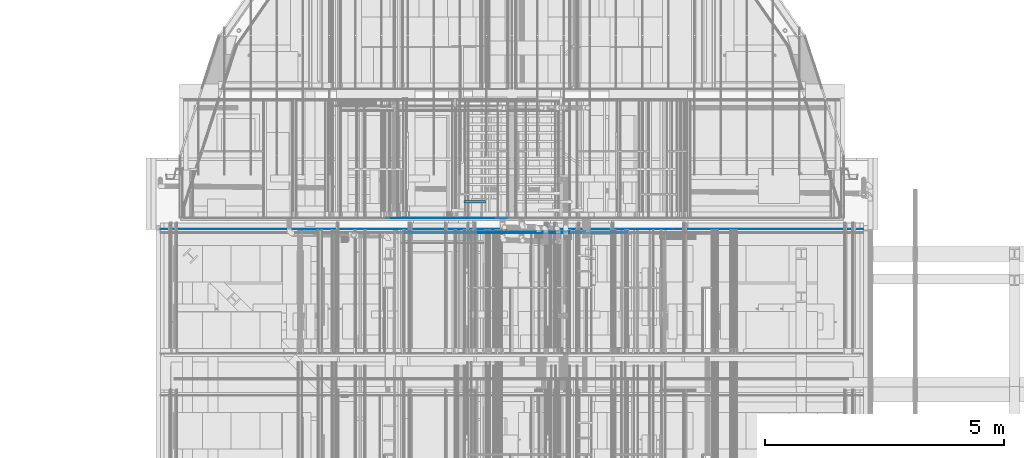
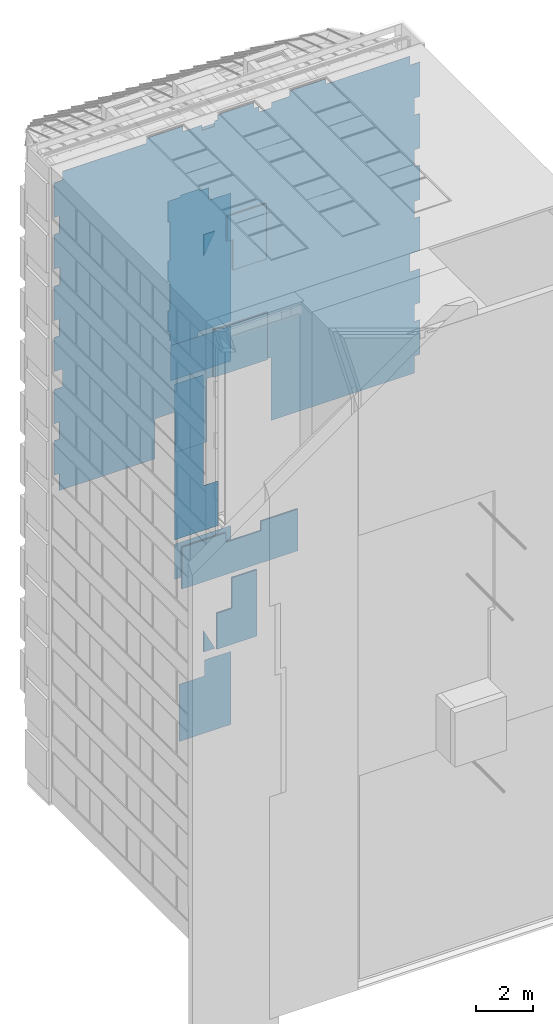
# One storey, part 265 of 583: 19 slabs.
"""IFC2X3 building model written with IfcOpenShell, lengths in metres."""

from ifc_helpers import new_model, entity, si_unit, converted_unit, derived_unit, money_unit, direction, frame, origin_with_axes, place, context, subcontext, project, spatial, faceted_brep, material, type_object, element, save


model = new_model("IFC2X3")

# Units and contexts
model_context = context("Model", 3, precision=1e-05, world=origin_with_axes(), true_north=direction((0.0, 1.0)))
body_context = subcontext(model_context, "Body", "Model", "MODEL_VIEW", scale=1.0)
ifc_project = project(units=[si_unit("LENGTHUNIT", "METRE"), si_unit("AREAUNIT", "SQUARE_METRE"), si_unit("VOLUMEUNIT", "CUBIC_METRE"), si_unit("ABSORBEDDOSEUNIT", "GRAY"), si_unit("AMOUNTOFSUBSTANCEUNIT", "MOLE"), si_unit("DOSEEQUIVALENTUNIT", "SIEVERT"), si_unit("ELECTRICCAPACITANCEUNIT", "FARAD"), si_unit("ELECTRICCHARGEUNIT", "COULOMB"), si_unit("ELECTRICCONDUCTANCEUNIT", "SIEMENS"), si_unit("ELECTRICCURRENTUNIT", "AMPERE"), si_unit("ELECTRICRESISTANCEUNIT", "OHM"), si_unit("ELECTRICVOLTAGEUNIT", "VOLT"), si_unit("ENERGYUNIT", "JOULE"), si_unit("FORCEUNIT", "NEWTON"), si_unit("FREQUENCYUNIT", "HERTZ"), si_unit("ILLUMINANCEUNIT", "LUX"), si_unit("INDUCTANCEUNIT", "HENRY"), si_unit("LUMINOUSFLUXUNIT", "LUMEN"), si_unit("LUMINOUSINTENSITYUNIT", "CANDELA"), si_unit("MAGNETICFLUXDENSITYUNIT", "TESLA"), si_unit("MAGNETICFLUXUNIT", "WEBER"), si_unit("MASSUNIT", "GRAM"), converted_unit("PLANEANGLEUNIT", "degree", entity("IfcReal", 0.0174532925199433), si_unit("PLANEANGLEUNIT", "RADIAN"), dimensions=[0, 0, 0, 0, 0, 0, 0]), si_unit("POWERUNIT", "WATT"), si_unit("PRESSUREUNIT", "PASCAL"), si_unit("RADIOACTIVITYUNIT", "BECQUEREL"), si_unit("SOLIDANGLEUNIT", "STERADIAN"), si_unit("THERMODYNAMICTEMPERATUREUNIT", "KELVIN"), si_unit("TIMEUNIT", "SECOND"), derived_unit("ACCELERATIONUNIT", [(si_unit("LENGTHUNIT", "METRE"), 1), (si_unit("TIMEUNIT", "SECOND"), -2)]), derived_unit("ANGULARVELOCITYUNIT", [(converted_unit("PLANEANGLEUNIT", "degree", entity("IfcReal", 0.0174532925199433), si_unit("PLANEANGLEUNIT", "RADIAN"), dimensions=[0, 0, 0, 0, 0, 0, 0]), 1), (si_unit("TIMEUNIT", "SECOND"), -1)]), derived_unit("CURVATUREUNIT", [(converted_unit("PLANEANGLEUNIT", "degree", entity("IfcReal", 0.0174532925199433), si_unit("PLANEANGLEUNIT", "RADIAN"), dimensions=[0, 0, 0, 0, 0, 0, 0]), 1), (si_unit("LENGTHUNIT", "METRE"), -1)]), derived_unit("DYNAMICVISCOSITYUNIT", [(si_unit("PRESSUREUNIT", "PASCAL"), 1), (si_unit("TIMEUNIT", "SECOND"), 1)]), derived_unit("HEATFLUXDENSITYUNIT", [(si_unit("POWERUNIT", "WATT"), 1), (si_unit("LENGTHUNIT", "METRE"), -2)]), derived_unit("HEATINGVALUEUNIT", [(si_unit("ENERGYUNIT", "JOULE"), 1), (si_unit("MASSUNIT", "GRAM"), -1)]), derived_unit("INTEGERCOUNTRATEUNIT", [(si_unit("TIMEUNIT", "SECOND"), -1)]), derived_unit("IONCONCENTRATIONUNIT", [(si_unit("MASSUNIT", "GRAM"), 1), (si_unit("VOLUMEUNIT", "CUBIC_METRE"), -1)]), derived_unit("ISOTHERMALMOISTURECAPACITYUNIT", [(si_unit("VOLUMEUNIT", "CUBIC_METRE"), 1), (si_unit("MASSUNIT", "GRAM"), -1)]), derived_unit("KINEMATICVISCOSITYUNIT", [(si_unit("AREAUNIT", "SQUARE_METRE"), 1), (si_unit("TIMEUNIT", "SECOND"), -1)]), derived_unit("LINEARFORCEUNIT", [(si_unit("FORCEUNIT", "NEWTON"), 1), (si_unit("LENGTHUNIT", "METRE"), -1)]), derived_unit("LINEARMOMENTUNIT", [(si_unit("FORCEUNIT", "NEWTON"), 1), (si_unit("LENGTHUNIT", "METRE"), -1)]), derived_unit("LINEARSTIFFNESSUNIT", [(si_unit("FORCEUNIT", "NEWTON"), 1), (si_unit("LENGTHUNIT", "METRE"), -1)]), derived_unit("LINEARVELOCITYUNIT", [(si_unit("LENGTHUNIT", "METRE"), 1), (si_unit("TIMEUNIT", "SECOND"), -1)]), derived_unit("LUMINOUSINTENSITYDISTRIBUTIONUNIT", [(si_unit("LUMINOUSINTENSITYUNIT", "CANDELA"), 1), (si_unit("LUMINOUSFLUXUNIT", "LUMEN"), -1)]), derived_unit("MASSDENSITYUNIT", [(si_unit("MASSUNIT", "GRAM"), 1), (si_unit("VOLUMEUNIT", "CUBIC_METRE"), -1)]), derived_unit("MASSFLOWRATEUNIT", [(si_unit("MASSUNIT", "GRAM"), 1), (si_unit("TIMEUNIT", "SECOND"), -1)]), derived_unit("MASSPERLENGTHUNIT", [(si_unit("MASSUNIT", "GRAM"), 1), (si_unit("LENGTHUNIT", "METRE"), -1)]), derived_unit("MODULUSOFELASTICITYUNIT", [(si_unit("FORCEUNIT", "NEWTON"), 1), (si_unit("AREAUNIT", "SQUARE_METRE"), -1)]), derived_unit("MODULUSOFLINEARSUBGRADEREACTIONUNIT", [(si_unit("FORCEUNIT", "NEWTON"), 1), (si_unit("LENGTHUNIT", "METRE"), -2)]), derived_unit("MODULUSOFROTATIONALSUBGRADEREACTIONUNIT", [(si_unit("FORCEUNIT", "NEWTON"), 1), (si_unit("LENGTHUNIT", "METRE"), 1)]), derived_unit("MODULUSOFSUBGRADEREACTIONUNIT", [(si_unit("FORCEUNIT", "NEWTON"), 1), (si_unit("VOLUMEUNIT", "CUBIC_METRE"), -1)]), derived_unit("MOISTUREDIFFUSIVITYUNIT", [(si_unit("VOLUMEUNIT", "CUBIC_METRE"), 1), (si_unit("TIMEUNIT", "SECOND"), -1)]), derived_unit("MOLECULARWEIGHTUNIT", [(si_unit("MASSUNIT", "GRAM"), 1), (si_unit("AMOUNTOFSUBSTANCEUNIT", "MOLE"), -1)]), derived_unit("PLANARFORCEUNIT", [(si_unit("FORCEUNIT", "NEWTON"), 1), (si_unit("LENGTHUNIT", "METRE"), -2)]), derived_unit("ROTATIONALFREQUENCYUNIT", [(si_unit("TIMEUNIT", "SECOND"), -1)]), derived_unit("ROTATIONALMASSUNIT", [(si_unit("MASSUNIT", "GRAM"), 1), (si_unit("LENGTHUNIT", "METRE"), 2)]), derived_unit("ROTATIONALSTIFFNESSUNIT", [(si_unit("FORCEUNIT", "NEWTON"), 1), (si_unit("LENGTHUNIT", "METRE"), 1), (converted_unit("PLANEANGLEUNIT", "degree", entity("IfcReal", 0.0174532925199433), si_unit("PLANEANGLEUNIT", "RADIAN"), dimensions=[0, 0, 0, 0, 0, 0, 0]), -1)]), derived_unit("SECTIONAREAINTEGRALUNIT", [(si_unit("LENGTHUNIT", "METRE"), 5)]), derived_unit("SECTIONMODULUSUNIT", [(si_unit("LENGTHUNIT", "METRE"), 3)]), derived_unit("SHEARMODULUSUNIT", [(si_unit("FORCEUNIT", "NEWTON"), 1), (si_unit("AREAUNIT", "SQUARE_METRE"), -1)]), derived_unit("SOUNDPOWERUNIT", [(si_unit("ENERGYUNIT", "JOULE"), 1), (si_unit("TIMEUNIT", "SECOND"), -1)]), derived_unit("SPECIFICHEATCAPACITYUNIT", [(si_unit("FORCEUNIT", "NEWTON"), 1), (si_unit("MASSUNIT", "GRAM"), -1), (si_unit("THERMODYNAMICTEMPERATUREUNIT", "KELVIN"), -1)]), derived_unit("TEMPERATUREGRADIENTUNIT", [(si_unit("THERMODYNAMICTEMPERATUREUNIT", "KELVIN"), 1), (si_unit("LENGTHUNIT", "METRE"), -1)]), derived_unit("THERMALADMITTANCEUNIT", [(si_unit("POWERUNIT", "WATT"), 1), (si_unit("AREAUNIT", "SQUARE_METRE"), -1), (si_unit("THERMODYNAMICTEMPERATUREUNIT", "KELVIN"), -1)]), derived_unit("THERMALCONDUCTANCEUNIT", [(si_unit("POWERUNIT", "WATT"), 1), (si_unit("LENGTHUNIT", "METRE"), -1), (si_unit("THERMODYNAMICTEMPERATUREUNIT", "KELVIN"), -1)]), derived_unit("THERMALEXPANSIONCOEFFICIENTUNIT", [(si_unit("THERMODYNAMICTEMPERATUREUNIT", "KELVIN"), -1)]), derived_unit("THERMALRESISTANCEUNIT", [(si_unit("AREAUNIT", "SQUARE_METRE"), 1), (si_unit("POWERUNIT", "WATT"), -1)]), derived_unit("THERMALTRANSMITTANCEUNIT", [(si_unit("POWERUNIT", "WATT"), 1), (si_unit("AREAUNIT", "SQUARE_METRE"), -1), (si_unit("THERMODYNAMICTEMPERATUREUNIT", "KELVIN"), -1)]), derived_unit("TORQUEUNIT", [(si_unit("FORCEUNIT", "NEWTON"), 1), (si_unit("LENGTHUNIT", "METRE"), 1)]), derived_unit("VAPORPERMEABILITYUNIT", [(si_unit("MASSUNIT", "GRAM"), 1), (si_unit("TIMEUNIT", "SECOND"), -1)]), derived_unit("VOLUMETRICFLOWRATEUNIT", [(si_unit("VOLUMEUNIT", "CUBIC_METRE"), 1), (si_unit("TIMEUNIT", "SECOND"), -1)]), derived_unit("WARPINGCONSTANTUNIT", [(si_unit("LENGTHUNIT", "METRE"), 6)]), derived_unit("WARPINGMOMENTUNIT", [(si_unit("FORCEUNIT", "NEWTON"), 1), (si_unit("LENGTHUNIT", "METRE"), 2)]), money_unit("GBP")], contexts=[model_context])

# Site, building, storey
site_placement = place(None, origin_with_axes())
site = spatial("IfcSite", under=ifc_project, at=site_placement, Name="Site", CompositionType="ELEMENT")
building_placement = place(site_placement, origin_with_axes())
building = spatial("IfcBuilding", under=site, at=building_placement, Name="Building01", CompositionType="ELEMENT")
storey_placement = place(building_placement, frame((0.0, 0.0, 20.78), z_axis=(0.0, 0.0, 1.0), x_axis=(1.0, 0.0, 0.0)))
storey = spatial("IfcBuildingStorey", under=building, at=storey_placement, Name="RL", CompositionType="ELEMENT", Elevation=20.78)

# Slabs
ifc_material_1 = material(Name="A_BSUK_CeilingSoffitFinishes_Suspended")
slab_type_1 = type_object("IfcSlabType", Name="A-FloorsSlabs A_BSUK_Slabs", PredefinedType="FLOOR")
placement = place(storey_placement, frame((0.0, 0.0, -20.78), z_axis=(0.0, 0.0, 1.0), x_axis=(1.0, 0.0, 0.0)))
element("IfcSlab", 1, at=placement, inside=storey, type_object=slab_type_1, material=ifc_material_1, Name="A-FloorsSlabs A_BSUK_Slabs", ObjectType="CompoundSlabLeaf", context=body_context, shape_type="Brep", body=[
    faceted_brep([(5.205, 14.658, 7.289669), (5.205, 14.673, 7.289669), (9.862704, 14.673, 7.289669), (9.862704, 14.658, 7.289669), (5.205, 14.658, 9.06), (5.205, 14.673, 9.06), (6.968405, 14.658, 9.06), (6.968405, 14.673, 9.06), (6.968405, 14.658, 8.658), (6.968405, 14.673, 8.658), (8.372405, 14.658, 8.658), (8.372405, 14.673, 8.658), (8.372405, 14.658, 9.06), (8.372405, 14.673, 9.06), (8.665, 14.658, 9.06), (8.665, 14.673, 9.06), (9.862704, 14.658, 9.06), (9.862704, 14.673, 9.06)], [[[0, 1, 2, 3]], [[4, 5, 1, 0]], [[6, 7, 5, 4]], [[8, 9, 7, 6]], [[10, 11, 9, 8]], [[12, 13, 11, 10]], [[14, 15, 13, 12]], [[16, 17, 15, 14]], [[3, 2, 17, 16]], [[1, 5, 7, 9, 11, 13, 15, 17, 2]], [[3, 16, 14, 12, 10, 8, 6, 4, 0]]]),
])
element("IfcSlab", 2, at=placement, inside=storey, type_object=slab_type_1, material=ifc_material_1, Name="A-FloorsSlabs A_BSUK_Slabs", ObjectType="CompoundSlabLeaf", context=body_context, shape_type="Brep", body=[
    faceted_brep([(6.475, 14.658, 15.83), (6.475, 14.673, 15.83), (8.65, 14.673, 15.83), (8.65, 14.658, 15.83), (6.475, 14.658, 17.83), (6.475, 14.673, 17.83), (8.65, 14.658, 17.83), (8.65, 14.673, 17.83)], [[[0, 1, 2, 3]], [[4, 5, 1, 0]], [[6, 7, 5, 4]], [[3, 2, 7, 6]], [[1, 5, 7, 2]], [[3, 6, 4, 0]]]),
])
element("IfcSlab", 3, at=placement, inside=storey, type_object=slab_type_1, material=ifc_material_1, Name="A-FloorsSlabs A_BSUK_Slabs", ObjectType="CompoundSlabLeaf", context=body_context, shape_type="Brep", body=[
    faceted_brep([(8.595, 14.658, 20.122661), (8.595, 14.673, 20.122661), (8.595, 14.673, 22.476661), (8.595, 14.658, 22.476661), (7.25, 14.658, 20.122661), (7.25, 14.673, 20.122661), (7.25, 14.658, 21.417661), (7.25, 14.673, 21.417661), (7.05, 14.658, 21.417661), (7.05, 14.673, 21.417661), (7.05, 14.658, 22.476661), (7.05, 14.673, 22.476661)], [[[0, 1, 2, 3]], [[4, 5, 1, 0]], [[6, 7, 5, 4]], [[8, 9, 7, 6]], [[10, 11, 9, 8]], [[3, 2, 11, 10]], [[1, 5, 7, 9, 11, 2]], [[3, 10, 8, 6, 4, 0]]]),
])
element("IfcSlab", 4, at=placement, inside=storey, type_object=slab_type_1, material=ifc_material_1, Name="A-FloorsSlabs A_BSUK_Slabs", ObjectType="CompoundSlabLeaf", context=body_context, shape_type="Brep", body=[
    faceted_brep([(8.21067, 14.658, 4.24073), (8.21067, 14.673, 4.24073), (8.21067, 14.673, 7.064669), (8.21067, 14.658, 7.064669), (6.606475, 14.658, 4.24073), (6.606475, 14.673, 4.24073), (6.606475, 14.658, 5.769669), (6.606475, 14.673, 5.769669), (7.206475, 14.658, 5.769669), (7.206475, 14.673, 5.769669), (7.206475, 14.658, 7.064669), (7.206475, 14.673, 7.064669)], [[[0, 1, 2, 3]], [[4, 5, 1, 0]], [[6, 7, 5, 4]], [[8, 9, 7, 6]], [[10, 11, 9, 8]], [[3, 2, 11, 10]], [[1, 5, 7, 9, 11, 2]], [[3, 10, 8, 6, 4, 0]]]),
])
element("IfcSlab", 5, at=placement, inside=storey, type_object=slab_type_1, material=ifc_material_1, Name="A-FloorsSlabs A_BSUK_Slabs", ObjectType="CompoundSlabLeaf", context=body_context, shape_type="Brep", body=[
    faceted_brep([(14.402, 14.723, 26.662), (14.402, 14.738, 26.662), (11.03218, 14.738, 26.662), (11.03218, 14.723, 26.662), (14.402, 14.723, 26.285), (14.402, 14.738, 26.285), (14.8, 14.723, 26.285), (14.8, 14.738, 26.285), (14.8, 14.723, 24.815), (14.8, 14.738, 24.815), (14.582, 14.723, 24.815), (14.582, 14.738, 24.815), (14.582, 14.723, 24.095), (14.582, 14.738, 24.095), (14.8, 14.723, 24.095), (14.8, 14.738, 24.095), (14.8, 14.723, 22.625), (14.8, 14.738, 22.625), (14.582, 14.723, 22.625), (14.582, 14.738, 22.625), (14.582, 14.723, 21.905), (14.582, 14.738, 21.905), (14.8, 14.723, 21.905), (14.8, 14.738, 21.905), (14.8, 14.723, 20.435), (14.8, 14.738, 20.435), (14.582, 14.723, 20.435), (14.582, 14.738, 20.435), (14.582, 14.723, 19.715), (14.582, 14.738, 19.715), (14.8, 14.723, 19.715), (14.8, 14.738, 19.715), (14.8, 14.723, 18.268), (14.8, 14.738, 18.268), (14.402, 14.723, 18.268), (14.402, 14.738, 18.268), (14.402, 14.723, 17.502), (14.402, 14.738, 17.502), (14.8, 14.723, 17.502), (14.8, 14.738, 17.502), (14.8, 14.723, 16.055), (14.8, 14.738, 16.055), (14.582, 14.723, 16.055), (14.582, 14.738, 16.055), (14.582, 14.723, 15.335), (14.582, 14.738, 15.335), (14.8, 14.723, 15.335), (14.8, 14.738, 15.335), (14.8, 14.723, 13.865), (14.8, 14.738, 13.865), (14.582, 14.723, 13.865), (14.582, 14.738, 13.865), (14.582, 14.723, 13.145), (14.582, 14.738, 13.145), (8.82, 14.723, 13.145), (8.82, 14.738, 13.145), (8.82, 14.723, 15.83), (8.82, 14.738, 15.83), (6.25, 14.723, 15.83), (6.25, 14.738, 15.83), (6.25, 14.723, 13.145), (6.25, 14.738, 13.145), (4.98, 14.723, 13.145), (4.98, 14.738, 13.145), (4.98, 14.723, 14.85), (4.98, 14.738, 14.85), (4.164428, 14.723, 14.85), (4.164428, 14.738, 14.85), (4.164428, 14.723, 13.145), (4.164428, 14.738, 13.145), (0.318, 14.723, 13.145), (0.318, 14.738, 13.145), (0.318, 14.723, 13.865), (0.318, 14.738, 13.865), (0.1, 14.723, 13.865), (0.1, 14.738, 13.865), (0.1, 14.723, 15.335), (0.1, 14.738, 15.335), (0.318, 14.723, 15.335), (0.318, 14.738, 15.335), (0.318, 14.723, 16.055), (0.318, 14.738, 16.055), (0.1, 14.723, 16.055), (0.1, 14.738, 16.055), (0.1, 14.723, 17.502), (0.1, 14.738, 17.502), (0.448, 14.723, 17.502), (0.448, 14.738, 17.502), (0.448, 14.723, 18.268), (0.448, 14.738, 18.268), (0.1, 14.723, 18.268), (0.1, 14.738, 18.268), (0.1, 14.723, 19.715), (0.1, 14.738, 19.715), (0.318, 14.723, 19.715), (0.318, 14.738, 19.715), (0.318, 14.723, 20.435), (0.318, 14.738, 20.435), (0.1, 14.723, 20.435), (0.1, 14.738, 20.435), (0.1, 14.723, 21.89), (0.1, 14.738, 21.89), (0.333, 14.723, 21.89), (0.333, 14.738, 21.89), (0.333, 14.723, 22.625), (0.333, 14.738, 22.625), (0.1, 14.723, 22.625), (0.1, 14.738, 22.625), (0.1, 14.723, 24.095), (0.1, 14.738, 24.095), (0.318, 14.723, 24.095), (0.318, 14.738, 24.095), (0.318, 14.723, 24.815), (0.318, 14.738, 24.815), (0.1, 14.723, 24.815), (0.1, 14.738, 24.815), (0.1, 14.723, 26.285), (0.1, 14.738, 26.285), (0.448, 14.723, 26.285), (0.448, 14.738, 26.285), (0.448, 14.723, 26.662), (0.448, 14.738, 26.662), (3.82218, 14.723, 26.662), (3.82218, 14.738, 26.662), (3.82218, 14.723, 26.88), (3.82218, 14.738, 26.88), (5.29218, 14.723, 26.88), (5.29218, 14.738, 26.88), (5.29218, 14.723, 26.662), (5.29218, 14.738, 26.662), (6.052, 14.723, 26.662), (6.052, 14.738, 26.662), (6.052, 14.723, 26.432), (6.052, 14.738, 26.432), (6.548, 14.723, 26.432), (6.548, 14.738, 26.432), (6.548, 14.723, 26.662), (6.548, 14.738, 26.662), (6.682326, 14.723, 26.662), (6.682326, 14.738, 26.662), (6.682326, 14.723, 26.88), (6.682326, 14.738, 26.88), (8.137326, 14.723, 26.88), (8.137326, 14.738, 26.88), (8.137326, 14.723, 26.646178), (8.137326, 14.738, 26.646178), (8.334548, 14.723, 26.646178), (8.334548, 14.738, 26.646178), (8.334548, 14.723, 26.417), (8.334548, 14.738, 26.417), (8.848, 14.723, 26.417), (8.848, 14.738, 26.417), (8.848, 14.723, 26.646178), (8.848, 14.738, 26.646178), (9.57718, 14.723, 26.646178), (9.57718, 14.738, 26.646178), (9.57718, 14.723, 26.88), (9.57718, 14.738, 26.88), (11.03218, 14.723, 26.88), (11.03218, 14.738, 26.88)], [[[0, 1, 2, 3]], [[4, 5, 1, 0]], [[6, 7, 5, 4]], [[8, 9, 7, 6]], [[10, 11, 9, 8]], [[12, 13, 11, 10]], [[14, 15, 13, 12]], [[16, 17, 15, 14]], [[18, 19, 17, 16]], [[20, 21, 19, 18]], [[22, 23, 21, 20]], [[24, 25, 23, 22]], [[26, 27, 25, 24]], [[28, 29, 27, 26]], [[30, 31, 29, 28]], [[32, 33, 31, 30]], [[34, 35, 33, 32]], [[36, 37, 35, 34]], [[38, 39, 37, 36]], [[40, 41, 39, 38]], [[42, 43, 41, 40]], [[44, 45, 43, 42]], [[46, 47, 45, 44]], [[48, 49, 47, 46]], [[50, 51, 49, 48]], [[52, 53, 51, 50]], [[54, 55, 53, 52]], [[56, 57, 55, 54]], [[58, 59, 57, 56]], [[60, 61, 59, 58]], [[62, 63, 61, 60]], [[64, 65, 63, 62]], [[66, 67, 65, 64]], [[68, 69, 67, 66]], [[70, 71, 69, 68]], [[72, 73, 71, 70]], [[74, 75, 73, 72]], [[76, 77, 75, 74]], [[78, 79, 77, 76]], [[80, 81, 79, 78]], [[82, 83, 81, 80]], [[84, 85, 83, 82]], [[86, 87, 85, 84]], [[88, 89, 87, 86]], [[90, 91, 89, 88]], [[92, 93, 91, 90]], [[94, 95, 93, 92]], [[96, 97, 95, 94]], [[98, 99, 97, 96]], [[100, 101, 99, 98]], [[102, 103, 101, 100]], [[104, 105, 103, 102]], [[106, 107, 105, 104]], [[108, 109, 107, 106]], [[110, 111, 109, 108]], [[112, 113, 111, 110]], [[114, 115, 113, 112]], [[116, 117, 115, 114]], [[118, 119, 117, 116]], [[120, 121, 119, 118]], [[122, 123, 121, 120]], [[124, 125, 123, 122]], [[126, 127, 125, 124]], [[128, 129, 127, 126]], [[130, 131, 129, 128]], [[132, 133, 131, 130]], [[134, 135, 133, 132]], [[136, 137, 135, 134]], [[138, 139, 137, 136]], [[140, 141, 139, 138]], [[142, 143, 141, 140]], [[144, 145, 143, 142]], [[146, 147, 145, 144]], [[148, 149, 147, 146]], [[150, 151, 149, 148]], [[152, 153, 151, 150]], [[154, 155, 153, 152]], [[156, 157, 155, 154]], [[158, 159, 157, 156]], [[3, 2, 159, 158]], [[1, 5, 7, 9, 11, 13, 15, 17, 19, 21, 23, 25, 27, 29, 31, 33, 35, 37, 39, 41, 43, 45, 47, 49, 51, 53, 55, 57, 59, 61, 63, 65, 67, 69, 71, 73, 75, 77, 79, 81, 83, 85, 87, 89, 91, 93, 95, 97, 99, 101, 103, 105, 107, 109, 111, 113, 115, 117, 119, 121, 123, 125, 127, 129, 131, 133, 135, 137, 139, 141, 143, 145, 147, 149, 151, 153, 155, 157, 159, 2]], [[3, 158, 156, 154, 152, 150, 148, 146, 144, 142, 140, 138, 136, 134, 132, 130, 128, 126, 124, 122, 120, 118, 116, 114, 112, 110, 108, 106, 104, 102, 100, 98, 96, 94, 92, 90, 88, 86, 84, 82, 80, 78, 76, 74, 72, 70, 68, 66, 64, 62, 60, 58, 56, 54, 52, 50, 48, 46, 44, 42, 40, 38, 36, 34, 32, 30, 28, 26, 24, 22, 20, 18, 16, 14, 12, 10, 8, 6, 4, 0]]]),
])
ifc_material_2 = material(Name="A_BSUK_ExpandedPolystyreneBoards")
element("IfcSlab", 6, at=placement, inside=storey, type_object=slab_type_1, material=ifc_material_2, Name="A-FloorsSlabs A_BSUK_Slabs", ObjectType="CompoundSlabLeaf", context=body_context, shape_type="Brep", body=[
    faceted_brep([(7.284939, 14.965, 3.715111), (7.284939, 14.968, 3.715111), (6.279939, 14.968, 3.715111), (6.279939, 14.965, 3.715111), (7.349939, 14.965, 3.715111), (7.349939, 14.968, 3.715111), (7.349939, 14.965, 0.6038), (7.349939, 14.968, 0.6038), (5.254976, 14.965, 0.6038), (5.254976, 14.968, 0.6038), (5.254976, 14.965, 1.312402), (5.254976, 14.968, 1.312402), (5.254976, 14.965, 3.039976), (5.254976, 14.968, 3.039976), (6.279939, 14.965, 3.039976), (6.279939, 14.968, 3.039976)], [[[0, 1, 2, 3]], [[4, 5, 1, 0]], [[6, 7, 5, 4]], [[8, 9, 7, 6]], [[10, 11, 9, 8]], [[12, 13, 11, 10]], [[14, 15, 13, 12]], [[3, 2, 15, 14]], [[1, 5, 7, 9, 11, 13, 15, 2]], [[3, 14, 12, 10, 8, 6, 4, 0]]]),
])
element("IfcSlab", 7, at=placement, inside=storey, type_object=slab_type_1, material=ifc_material_2, Name="A-FloorsSlabs A_BSUK_Slabs", ObjectType="CompoundSlabLeaf", context=body_context, shape_type="Brep", body=[
    faceted_brep([(5.08, 14.965, 7.56), (5.08, 14.968, 7.56), (7.349939, 14.968, 7.56), (7.349939, 14.965, 7.56), (5.08, 14.965, 9.06), (5.08, 14.968, 9.06), (7.349939, 14.965, 9.06), (7.349939, 14.968, 9.06)], [[[0, 1, 2, 3]], [[4, 5, 1, 0]], [[6, 7, 5, 4]], [[3, 2, 7, 6]], [[1, 5, 7, 2]], [[3, 6, 4, 0]]]),
])
element("IfcSlab", 8, at=placement, inside=storey, type_object=slab_type_1, material=ifc_material_2, Name="A-FloorsSlabs A_BSUK_Slabs", ObjectType="CompoundSlabLeaf", context=body_context, shape_type="Brep", body=[
    faceted_brep([(7.349915, 14.965, 16.03844), (7.349915, 14.968, 16.03844), (7.349915, 14.968, 17.53844), (7.349915, 14.965, 17.53844), (4.917, 14.965, 16.03844), (4.917, 14.968, 16.03844), (4.917, 14.965, 17.53844), (4.917, 14.968, 17.53844)], [[[0, 1, 2, 3]], [[4, 5, 1, 0]], [[6, 7, 5, 4]], [[3, 2, 7, 6]], [[1, 5, 7, 2]], [[3, 6, 4, 0]]]),
])
element("IfcSlab", 9, at=placement, inside=storey, type_object=slab_type_1, material=ifc_material_2, Name="A-FloorsSlabs A_BSUK_Slabs", ObjectType="CompoundSlabLeaf", context=body_context, shape_type="Brep", body=[
    faceted_brep([(7.349915, 14.965, 17.73844), (7.349915, 14.968, 17.73844), (7.349915, 14.968, 18.11844), (7.349915, 14.965, 18.11844), (6.028, 14.965, 17.73844), (6.028, 14.968, 17.73844), (6.028, 14.965, 17.53844), (6.028, 14.968, 17.53844), (4.944, 14.965, 17.53844), (4.944, 14.968, 17.53844), (4.944, 14.965, 17.73844), (4.944, 14.968, 17.73844), (4.897, 14.965, 17.73844), (4.897, 14.968, 17.73844), (4.897, 14.965, 18.149976), (4.897, 14.968, 18.149976), (4.817, 14.965, 18.149976), (4.817, 14.968, 18.149976), (4.817, 14.965, 19.049976), (4.817, 14.968, 19.049976), (4.897, 14.965, 19.049976), (4.897, 14.968, 19.049976), (4.897, 14.965, 20.269976), (4.897, 14.968, 20.269976), (4.817, 14.965, 20.269976), (4.817, 14.968, 20.269976), (4.817, 14.965, 21.169976), (4.817, 14.968, 21.169976), (4.897, 14.965, 21.169976), (4.897, 14.968, 21.169976), (4.897, 14.965, 22.81), (4.897, 14.968, 22.81), (4.817, 14.965, 22.81), (4.817, 14.968, 22.81), (4.817, 14.965, 23.71), (4.817, 14.968, 23.71), (4.897, 14.965, 23.71), (4.897, 14.968, 23.71), (5.330939, 14.965, 23.71), (5.330939, 14.968, 23.71), (5.330939, 14.965, 23.79), (5.330939, 14.968, 23.79), (6.080939, 14.965, 23.79), (6.080939, 14.968, 23.79), (6.080939, 14.965, 23.71), (6.080939, 14.968, 23.71), (6.470085, 14.965, 23.71), (6.470085, 14.968, 23.71), (6.470085, 14.965, 23.178821), (6.470085, 14.968, 23.178821), (7.349915, 14.965, 23.178821), (7.349915, 14.968, 23.178821), (7.349915, 14.965, 21.51844), (7.349915, 14.968, 21.51844)], [[[0, 1, 2, 3]], [[4, 5, 1, 0]], [[6, 7, 5, 4]], [[8, 9, 7, 6]], [[10, 11, 9, 8]], [[12, 13, 11, 10]], [[14, 15, 13, 12]], [[16, 17, 15, 14]], [[18, 19, 17, 16]], [[20, 21, 19, 18]], [[22, 23, 21, 20]], [[24, 25, 23, 22]], [[26, 27, 25, 24]], [[28, 29, 27, 26]], [[30, 31, 29, 28]], [[32, 33, 31, 30]], [[34, 35, 33, 32]], [[36, 37, 35, 34]], [[38, 39, 37, 36]], [[40, 41, 39, 38]], [[42, 43, 41, 40]], [[44, 45, 43, 42]], [[46, 47, 45, 44]], [[48, 49, 47, 46]], [[50, 51, 49, 48]], [[52, 53, 51, 50]], [[3, 2, 53, 52]], [[1, 5, 7, 9, 11, 13, 15, 17, 19, 21, 23, 25, 27, 29, 31, 33, 35, 37, 39, 41, 43, 45, 47, 49, 51, 53, 2]], [[3, 52, 50, 48, 46, 44, 42, 40, 38, 36, 34, 32, 30, 28, 26, 24, 22, 20, 18, 16, 14, 12, 10, 8, 6, 4, 0]]]),
])
element("IfcSlab", 10, at=placement, inside=storey, type_object=slab_type_1, material=ifc_material_2, Name="A-FloorsSlabs A_BSUK_Slabs", ObjectType="CompoundSlabLeaf", context=body_context, shape_type="Brep", body=[
    faceted_brep([(7.349915, 14.965, 23.258821), (7.349915, 14.968, 23.258821), (7.349915, 14.968, 26.3762), (7.349915, 14.965, 26.3762), (6.550085, 14.965, 23.258821), (6.550085, 14.968, 23.258821), (6.550085, 14.965, 23.79), (6.550085, 14.968, 23.79), (5.254915, 14.965, 23.79), (5.254915, 14.968, 23.79), (5.254915, 14.965, 26.3762), (5.254915, 14.968, 26.3762), (6.874964, 14.965, 26.3762), (6.874964, 14.968, 26.3762)], [[[0, 1, 2, 3]], [[4, 5, 1, 0]], [[6, 7, 5, 4]], [[8, 9, 7, 6]], [[10, 11, 9, 8]], [[12, 13, 11, 10]], [[3, 2, 13, 12]], [[1, 5, 7, 9, 11, 13, 2]], [[3, 12, 10, 8, 6, 4, 0]]]),
])
element("IfcSlab", 11, at=placement, inside=storey, type_object=slab_type_1, material=ifc_material_2, Name="A-FloorsSlabs A_BSUK_Slabs", ObjectType="CompoundSlabLeaf", context=body_context, shape_type="Brep", body=[
    faceted_brep([(5.08, 14.965, 9.23), (5.08, 14.968, 9.23), (6.85, 14.968, 9.23), (6.85, 14.965, 9.23), (5.08, 14.965, 15.83844), (5.08, 14.968, 15.83844), (6.25, 14.965, 15.83844), (6.25, 14.968, 15.83844), (6.25, 14.965, 11.13), (6.25, 14.968, 11.13), (6.85, 14.965, 11.13), (6.85, 14.968, 11.13)], [[[0, 1, 2, 3]], [[4, 5, 1, 0]], [[6, 7, 5, 4]], [[8, 9, 7, 6]], [[10, 11, 9, 8]], [[3, 2, 11, 10]], [[1, 5, 7, 9, 11, 2]], [[3, 10, 8, 6, 4, 0]]]),
])
ifc_material_3 = material(Name="A_BSUK_Slabs")
element("IfcSlab", 12, at=placement, inside=storey, type_object=slab_type_1, material=ifc_material_3, Name="A-FloorsSlabs A_BSUK_Slabs", ObjectType="CompoundSlabLeaf", context=body_context, shape_type="Brep", body=[
    faceted_brep([(6.899939, 15.29, 3.795111), (6.899939, 15.34, 3.795111), (6.449939, 15.34, 4.695111), (6.449939, 15.29, 4.695111), (6.449939, 15.29, 3.795111), (6.449939, 15.34, 3.795111)], [[[0, 1, 2, 3]], [[4, 5, 1, 0]], [[3, 2, 5, 4]], [[1, 5, 2]], [[3, 4, 0]]]),
])
element("IfcSlab", 13, at=placement, inside=storey, type_object=slab_type_1, material=ifc_material_3, Name="A-FloorsSlabs A_BSUK_Slabs", ObjectType="CompoundSlabLeaf", context=body_context, shape_type="Brep", body=[
    faceted_brep([(6.449939, 15.29, 20.61844), (6.449939, 15.34, 20.61844), (6.899939, 15.34, 21.51844), (6.899939, 15.29, 21.51844), (6.449939, 15.29, 21.51844), (6.449939, 15.34, 21.51844)], [[[0, 1, 2, 3]], [[4, 5, 1, 0]], [[3, 2, 5, 4]], [[1, 5, 2]], [[3, 4, 0]]]),
])
slab_type_2 = type_object("IfcSlabType", Name="A-FloorsSlabs A_BSUK_ExpandedPolystyreneBoards", PredefinedType="FLOOR")
element("IfcSlab", 14, at=placement, inside=storey, type_object=slab_type_2, material=ifc_material_2, Name="A-FloorsSlabs A_BSUK_ExpandedPolystyreneBoards", ObjectType="CompoundSlabLeaf", context=body_context, shape_type="Brep", body=[
    faceted_brep([(5.205, 14.673, 7.289669), (5.205, 14.723, 7.289669), (9.862704, 14.723, 7.289669), (9.862704, 14.673, 7.289669), (5.205, 14.673, 9.06), (5.205, 14.723, 9.06), (6.968405, 14.673, 9.06), (6.968405, 14.723, 9.06), (6.968405, 14.673, 8.658), (6.968405, 14.723, 8.658), (8.372405, 14.673, 8.658), (8.372405, 14.723, 8.658), (8.372405, 14.673, 9.06), (8.372405, 14.723, 9.06), (8.665, 14.673, 9.06), (8.665, 14.723, 9.06), (9.862704, 14.673, 9.06), (9.862704, 14.723, 9.06)], [[[0, 1, 2, 3]], [[4, 5, 1, 0]], [[6, 7, 5, 4]], [[8, 9, 7, 6]], [[10, 11, 9, 8]], [[12, 13, 11, 10]], [[14, 15, 13, 12]], [[16, 17, 15, 14]], [[3, 2, 17, 16]], [[1, 5, 7, 9, 11, 13, 15, 17, 2]], [[3, 16, 14, 12, 10, 8, 6, 4, 0]]]),
])
element("IfcSlab", 15, at=placement, inside=storey, type_object=slab_type_2, material=ifc_material_2, Name="A-FloorsSlabs A_BSUK_ExpandedPolystyreneBoards", ObjectType="CompoundSlabLeaf", context=body_context, shape_type="Brep", body=[
    faceted_brep([(6.475, 14.673, 15.83), (6.475, 14.723, 15.83), (8.65, 14.723, 15.83), (8.65, 14.673, 15.83), (6.475, 14.673, 17.83), (6.475, 14.723, 17.83), (8.65, 14.673, 17.83), (8.65, 14.723, 17.83)], [[[0, 1, 2, 3]], [[4, 5, 1, 0]], [[6, 7, 5, 4]], [[3, 2, 7, 6]], [[1, 5, 7, 2]], [[3, 6, 4, 0]]]),
])
element("IfcSlab", 16, at=placement, inside=storey, type_object=slab_type_2, material=ifc_material_2, Name="A-FloorsSlabs A_BSUK_ExpandedPolystyreneBoards", ObjectType="CompoundSlabLeaf", context=body_context, shape_type="Brep", body=[
    faceted_brep([(8.595, 14.673, 20.122661), (8.595, 14.723, 20.122661), (8.595, 14.723, 22.476661), (8.595, 14.673, 22.476661), (7.25, 14.673, 20.122661), (7.25, 14.723, 20.122661), (7.25, 14.673, 21.417661), (7.25, 14.723, 21.417661), (7.0, 14.673, 21.417661), (7.0, 14.723, 21.417661), (7.0, 14.673, 22.476661), (7.0, 14.723, 22.476661)], [[[0, 1, 2, 3]], [[4, 5, 1, 0]], [[6, 7, 5, 4]], [[8, 9, 7, 6]], [[10, 11, 9, 8]], [[3, 2, 11, 10]], [[1, 5, 7, 9, 11, 2]], [[3, 10, 8, 6, 4, 0]]]),
])
element("IfcSlab", 17, at=placement, inside=storey, type_object=slab_type_2, material=ifc_material_2, Name="A-FloorsSlabs A_BSUK_ExpandedPolystyreneBoards", ObjectType="CompoundSlabLeaf", context=body_context, shape_type="Brep", body=[
    faceted_brep([(8.21067, 14.673, 4.24073), (8.21067, 14.723, 4.24073), (8.21067, 14.723, 7.064669), (8.21067, 14.673, 7.064669), (6.606475, 14.673, 4.24073), (6.606475, 14.723, 4.24073), (6.606475, 14.673, 5.769669), (6.606475, 14.723, 5.769669), (7.206475, 14.673, 5.769669), (7.206475, 14.723, 5.769669), (7.206475, 14.673, 7.064669), (7.206475, 14.723, 7.064669)], [[[0, 1, 2, 3]], [[4, 5, 1, 0]], [[6, 7, 5, 4]], [[8, 9, 7, 6]], [[10, 11, 9, 8]], [[3, 2, 11, 10]], [[1, 5, 7, 9, 11, 2]], [[3, 10, 8, 6, 4, 0]]]),
])
ifc_material_4 = material(Name="A_BSUK_Carpet-Pile")
slab_type_3 = type_object("IfcSlabType", Name="A-Finishes A_BSUK_Carpet-Pile", PredefinedType="FLOOR")
element("IfcSlab", 18, at=placement, inside=storey, type_object=slab_type_3, material=ifc_material_4, Name="A-Finishes A_BSUK_Carpet-Pile", ObjectType="CompoundSlabLeaf", context=body_context, shape_type="Brep", body=[
    faceted_brep([(5.08, 14.968, 9.23), (5.08, 14.98, 9.23), (6.807, 14.98, 9.23), (6.807, 14.968, 9.23), (5.08, 14.968, 15.83844), (5.08, 14.98, 15.83844), (6.25, 14.968, 15.83844), (6.25, 14.98, 15.83844), (6.25, 14.968, 11.13), (6.25, 14.98, 11.13), (6.807, 14.968, 11.13), (6.807, 14.98, 11.13)], [[[0, 1, 2, 3]], [[4, 5, 1, 0]], [[6, 7, 5, 4]], [[8, 9, 7, 6]], [[10, 11, 9, 8]], [[3, 2, 11, 10]], [[1, 5, 7, 9, 11, 2]], [[3, 10, 8, 6, 4, 0]]]),
])
ifc_material_5 = material(Name="A_BSUK_InternalFinishes_FloorScreed")
slab_type_4 = type_object("IfcSlabType", Name="A-FloorsSlabs A_BSUK_InternalFinishes_FloorScreed", PredefinedType="FLOOR")
element("IfcSlab", 19, at=placement, inside=storey, type_object=slab_type_4, material=ifc_material_5, Name="A-FloorsSlabs A_BSUK_InternalFinishes_FloorScreed", ObjectType="CompoundSlabLeaf", context=body_context, shape_type="Brep", body=[
    faceted_brep([(7.349915, 14.968, 17.73844), (7.349915, 14.98, 17.73844), (7.349915, 14.98, 18.11844), (7.349915, 14.968, 18.11844), (6.028, 14.968, 17.73844), (6.028, 14.98, 17.73844), (6.028, 14.968, 17.53844), (6.028, 14.98, 17.53844), (4.944, 14.968, 17.53844), (4.944, 14.98, 17.53844), (4.944, 14.968, 17.73844), (4.944, 14.98, 17.73844), (4.897, 14.968, 17.73844), (4.897, 14.98, 17.73844), (4.897, 14.968, 18.149976), (4.897, 14.98, 18.149976), (4.817, 14.968, 18.149976), (4.817, 14.98, 18.149976), (4.817, 14.968, 19.049976), (4.817, 14.98, 19.049976), (4.897, 14.968, 19.049976), (4.897, 14.98, 19.049976), (4.897, 14.968, 20.269976), (4.897, 14.98, 20.269976), (4.817, 14.968, 20.269976), (4.817, 14.98, 20.269976), (4.817, 14.968, 21.169976), (4.817, 14.98, 21.169976), (4.897, 14.968, 21.169976), (4.897, 14.98, 21.169976), (4.897, 14.968, 22.81), (4.897, 14.98, 22.81), (4.817, 14.968, 22.81), (4.817, 14.98, 22.81), (4.817, 14.968, 23.71), (4.817, 14.98, 23.71), (4.897, 14.968, 23.71), (4.897, 14.98, 23.71), (5.330939, 14.968, 23.71), (5.330939, 14.98, 23.71), (5.330939, 14.968, 23.79), (5.330939, 14.98, 23.79), (6.080939, 14.968, 23.79), (6.080939, 14.98, 23.79), (6.080939, 14.968, 23.71), (6.080939, 14.98, 23.71), (6.470085, 14.968, 23.71), (6.470085, 14.98, 23.71), (6.470085, 14.968, 23.178821), (6.470085, 14.98, 23.178821), (7.349915, 14.968, 23.178821), (7.349915, 14.98, 23.178821), (7.349915, 14.968, 21.51844), (7.349915, 14.98, 21.51844)], [[[0, 1, 2, 3]], [[4, 5, 1, 0]], [[6, 7, 5, 4]], [[8, 9, 7, 6]], [[10, 11, 9, 8]], [[12, 13, 11, 10]], [[14, 15, 13, 12]], [[16, 17, 15, 14]], [[18, 19, 17, 16]], [[20, 21, 19, 18]], [[22, 23, 21, 20]], [[24, 25, 23, 22]], [[26, 27, 25, 24]], [[28, 29, 27, 26]], [[30, 31, 29, 28]], [[32, 33, 31, 30]], [[34, 35, 33, 32]], [[36, 37, 35, 34]], [[38, 39, 37, 36]], [[40, 41, 39, 38]], [[42, 43, 41, 40]], [[44, 45, 43, 42]], [[46, 47, 45, 44]], [[48, 49, 47, 46]], [[50, 51, 49, 48]], [[52, 53, 51, 50]], [[3, 2, 53, 52]], [[1, 5, 7, 9, 11, 13, 15, 17, 19, 21, 23, 25, 27, 29, 31, 33, 35, 37, 39, 41, 43, 45, 47, 49, 51, 53, 2]], [[3, 52, 50, 48, 46, 44, 42, 40, 38, 36, 34, 32, 30, 28, 26, 24, 22, 20, 18, 16, 14, 12, 10, 8, 6, 4, 0]]]),
])

save(model, "model.ifc")
